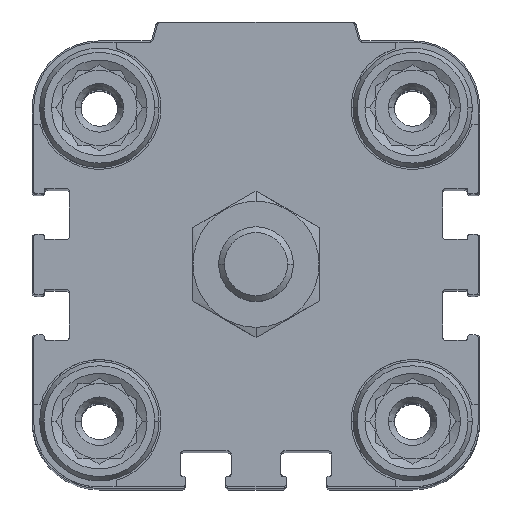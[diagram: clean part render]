
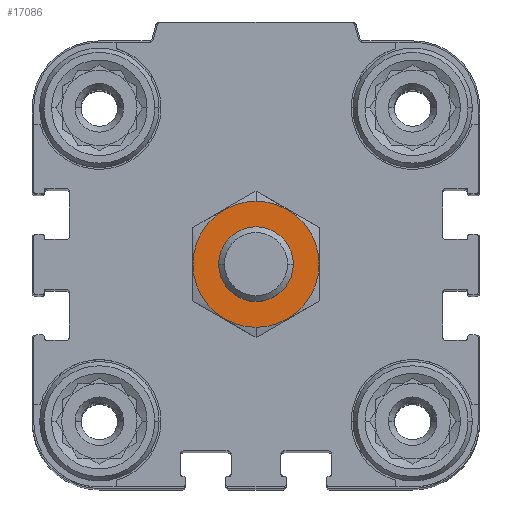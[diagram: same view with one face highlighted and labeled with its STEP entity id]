
A CAD part, top view. The second image highlights one B-rep face of the part: STEP entity #17086.
In plain terms, the highlighted planar face has unit normal (0, 0, 1).
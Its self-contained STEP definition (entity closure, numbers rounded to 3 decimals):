
#1319 = VERTEX_POINT ( 'NONE', #6815 ) ;
#2080 = EDGE_LOOP ( 'NONE', ( #10837, #18262 ) ) ;
#2682 = AXIS2_PLACEMENT_3D ( 'NONE', #4458, #6526, #6176 ) ;
#2780 = ORIENTED_EDGE ( 'NONE', *, *, #11829, .T. ) ;
#3211 = ORIENTED_EDGE ( 'NONE', *, *, #16202, .T. ) ;
#3737 = CIRCLE ( 'NONE', #6474, 5. ) ;
#4420 = DIRECTION ( 'NONE',  ( 0., -1., 0. ) ) ;
#4458 = CARTESIAN_POINT ( 'NONE',  ( 0., 0., 15.5 ) ) ;
#4562 = VERTEX_POINT ( 'NONE', #23725 ) ;
#6011 = CIRCLE ( 'NONE', #21569, 8.45 ) ;
#6052 = DIRECTION ( 'NONE',  ( 0., 0., -1. ) ) ;
#6176 = DIRECTION ( 'NONE',  ( 0., -1., 0. ) ) ;
#6389 = DIRECTION ( 'NONE',  ( 0., 0., -1. ) ) ;
#6474 = AXIS2_PLACEMENT_3D ( 'NONE', #11493, #11740, #10017 ) ;
#6526 = DIRECTION ( 'NONE',  ( 0., 0., -1. ) ) ;
#6815 = CARTESIAN_POINT ( 'NONE',  ( 0., 5., 15.5 ) ) ;
#7621 = EDGE_LOOP ( 'NONE', ( #3211, #2780 ) ) ;
#8621 = VERTEX_POINT ( 'NONE', #15012 ) ;
#8693 = CARTESIAN_POINT ( 'NONE',  ( 0., 8.45, 15.5 ) ) ;
#9663 = PLANE ( 'NONE',  #10969 ) ;
#9954 = CARTESIAN_POINT ( 'NONE',  ( 0., 0., 15.5 ) ) ;
#10017 = DIRECTION ( 'NONE',  ( 0., -1., 0. ) ) ;
#10837 = ORIENTED_EDGE ( 'NONE', *, *, #11901, .F. ) ;
#10969 = AXIS2_PLACEMENT_3D ( 'NONE', #17093, #22577, #4420 ) ;
#11493 = CARTESIAN_POINT ( 'NONE',  ( 0., 0., 15.5 ) ) ;
#11740 = DIRECTION ( 'NONE',  ( 0., 0., -1. ) ) ;
#11829 = EDGE_CURVE ( 'NONE', #8621, #1319, #20595, .T. ) ;
#11901 = EDGE_CURVE ( 'NONE', #4562, #15953, #19839, .T. ) ;
#13481 = DIRECTION ( 'NONE',  ( 0., -1., 0. ) ) ;
#14640 = EDGE_CURVE ( 'NONE', #15953, #4562, #6011, .T. ) ;
#15012 = CARTESIAN_POINT ( 'NONE',  ( 0., -5., 15.5 ) ) ;
#15276 = CARTESIAN_POINT ( 'NONE',  ( 0., 0., 15.5 ) ) ;
#15953 = VERTEX_POINT ( 'NONE', #8693 ) ;
#16202 = EDGE_CURVE ( 'NONE', #1319, #8621, #3737, .T. ) ;
#17086 = ADVANCED_FACE ( 'NONE', ( #19166, #20865 ), #9663, .F. ) ;
#17093 = CARTESIAN_POINT ( 'NONE',  ( 0., 0., 15.5 ) ) ;
#18262 = ORIENTED_EDGE ( 'NONE', *, *, #14640, .F. ) ;
#19166 = FACE_OUTER_BOUND ( 'NONE', #2080, .T. ) ;
#19839 = CIRCLE ( 'NONE', #22547, 8.45 ) ;
#20595 = CIRCLE ( 'NONE', #2682, 5. ) ;
#20865 = FACE_BOUND ( 'NONE', #7621, .T. ) ;
#21569 = AXIS2_PLACEMENT_3D ( 'NONE', #15276, #6389, #22714 ) ;
#22547 = AXIS2_PLACEMENT_3D ( 'NONE', #9954, #6052, #13481 ) ;
#22577 = DIRECTION ( 'NONE',  ( 0., 0., -1. ) ) ;
#22714 = DIRECTION ( 'NONE',  ( 0., -1., 0. ) ) ;
#23725 = CARTESIAN_POINT ( 'NONE',  ( 0., -8.45, 15.5 ) ) ;
